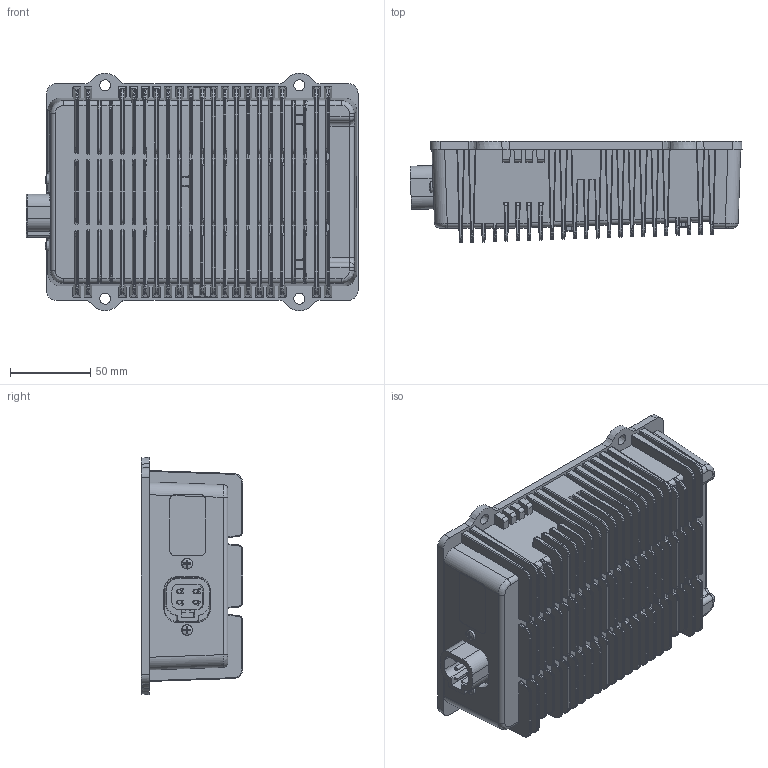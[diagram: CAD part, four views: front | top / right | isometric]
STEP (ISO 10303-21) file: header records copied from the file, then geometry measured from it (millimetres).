
FILE_DESCRIPTION(/* description */ ('','CAx-IF Rec.Pracs.---Representation and Presentation of Product Manufacturing Information (PMI)---3.8---2014-02-18'),/* implementation_level */ '2;1');
FILE_NAME(/* name */ 'S:\Projects\PS-24-12V5-25A, AX081510, Proj_21152\UNIT ASSEMBLY\RELEASED\A\AX081510.stp',/* time_stamp */ '2023-01-30T12:14:40-05:00',/* author */ ('tfisher'),/* organization */ (''),/* preprocessor_version */ 'ST-DEVELOPER v16.13',/* originating_system */ 'Autodesk Inventor 2018',/* authorisation */ '');
FILE_SCHEMA (('AP242_MANAGED_MODEL_BASED_3D_ENGINEERING_MIM_LF { 1 0 10303 442 1 1 4 }'));
Products named in the file (1): FG-AX081510 for STEP
Bounding box: 206.82 x 63.25 x 147.93 mm (x, y, z)
Volume: 595418.7 mm3; surface area: 268213.6 mm2
Topology: 2 solids, 46 shells, 3276 faces, 8162 edges, 5017 vertices
Faces by surface type: cylinder 1228, plane 1034, bspline 822, cone 124, torus 58, sphere 10
Full cylindrical faces by diameter (mm): 0.635 x9, 1.016 x16, 2.362 x4, 2.388 x16, 2.794 x2, 3.099 x2, 3.251 x3, 3.505 x2, 4.14 x6, 5 x6, 5.41 x2, 6.502 x2, 8.306 x2, 8.9 x6, 16.717 x1
Entity records: 137186 total; most frequent: CARTESIAN_POINT 57961, DIRECTION 16051, ORIENTED_EDGE 15868, EDGE_CURVE 7934, AXIS2_PLACEMENT_3D 6135, VERTEX_POINT 4937, LINE 3789, VECTOR 3789
